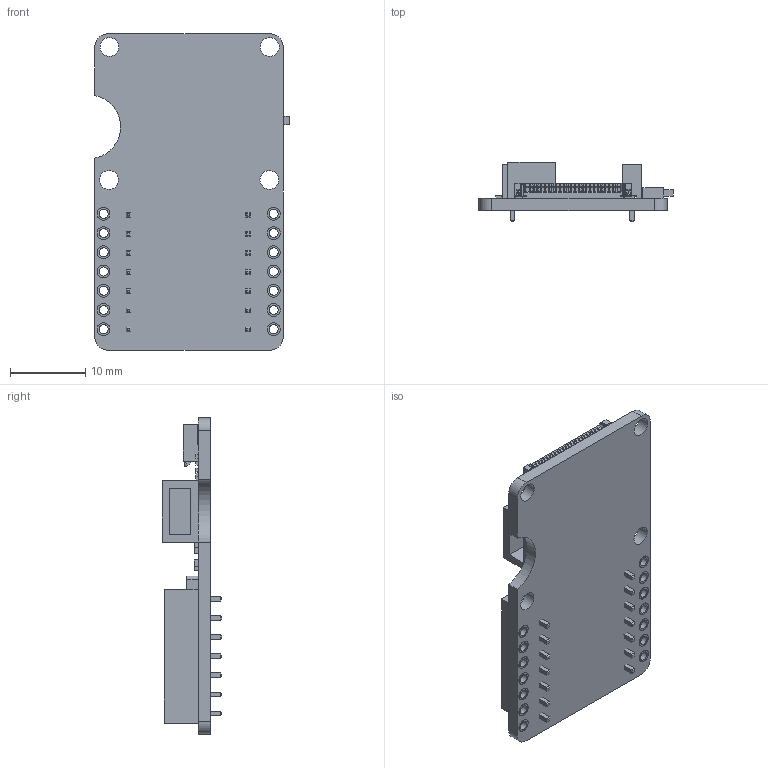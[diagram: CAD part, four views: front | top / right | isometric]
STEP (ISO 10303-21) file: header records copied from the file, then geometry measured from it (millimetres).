
FILE_DESCRIPTION(/* description */ ('','CAx-IF Rec.Pracs.---Representation and Presentation of Product Manufacturing Information (PMI)---4.0---2014-10-13'),/* implementation_level */ '2;1');
FILE_NAME(/* name */ 'ePaper Driver Board for Seeed Studio XIAO v1.step',/* time_stamp */ '2025-03-11T11:25:10+05:30',/* author */ (''),/* organization */ (''),/* preprocessor_version */ 'ST-DEVELOPER v20',/* originating_system */ 'Autodesk Translation Framework v13.20.0.188',/* authorisation */ '');
FILE_SCHEMA (('AP242_MANAGED_MODEL_BASED_3D_ENGINEERING_MIM_LF { 1 0 10303 442 1 1 4 }'));
Products named in the file (7): ePaper Driver Board for Seeed Studio XIAO; Wi-Fi HaLow Module for Seeed Studio XIAO v4; RS485 Breakout Board for Seeed Studio XIAO v3; PCB; FemaleHeader; FemaleHeader_1; FPC-05FB-24PH20
Assembly tree (6 placements, depth 4):
  ePaper Driver Board for Seeed Studio XIAO
    Wi-Fi HaLow Module for Seeed Studio XIAO v4
      RS485 Breakout Board for Seeed Studio XIAO v3
        PCB
        FemaleHeader
        FemaleHeader_1
    FPC-05FB-24PH20
Bounding box: 25.79 x 7.91 x 42 mm (x, y, z)
Volume: 2341.5 mm3; surface area: 4706.4 mm2
Topology: 76 solids, 76 shells, 2974 faces, 8143 edges, 5306 vertices
Faces by surface type: plane 2035, cylinder 937, torus 2
Full cylindrical faces by diameter (mm): 0.5 x2, 1.2 x14, 1.709 x28, 2.5 x4
Entity records: 96564 total; most frequent: CARTESIAN_POINT 16448, ORIENTED_EDGE 16286, DIRECTION 16009, EDGE_CURVE 8143, LINE 6247, VECTOR 6247, VERTEX_POINT 5306, AXIS2_PLACEMENT_3D 4881
